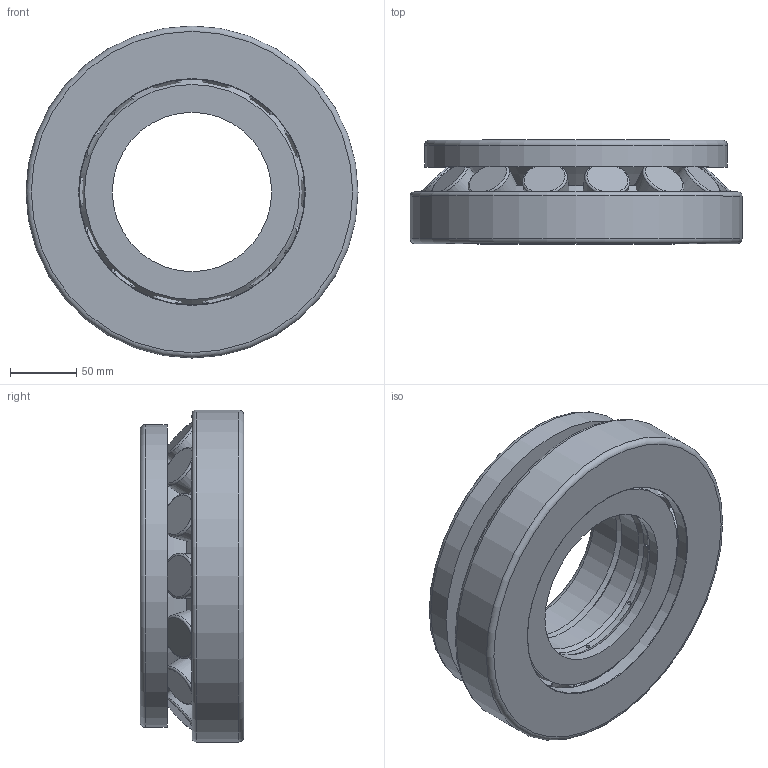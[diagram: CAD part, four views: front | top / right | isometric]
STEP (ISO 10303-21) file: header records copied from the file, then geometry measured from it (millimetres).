
FILE_DESCRIPTION(/* description */ (''),/* implementation_level */ '2;1');
FILE_NAME(/* name */ 'C:\Users\OUREHANEKD\Desktop\Ložiská\MODELY\ASL\294MC\292--\29424MC.stp',/* time_stamp */ '2016-09-22T13:52:43+02:00',/* author */ ('OUREHANEKD'),/* organization */ (''),/* preprocessor_version */ 'ST-DEVELOPER v15.6',/* originating_system */ 'Autodesk Inventor 2015',/* authorisation */ '');
FILE_SCHEMA (('AUTOMOTIVE_DESIGN { 1 0 10303 214 3 1 1 }'));
Length unit declared in the file: millimetre
Products named in the file (6): 29424MC-01; 29424MC-02; 29424MC-kl; 29424MC-kr; 29424MC-roller; 29424MC
Assembly tree (18 placements, depth 2):
  29424MC
    29424MC-01
    29424MC-02
    29424MC-kl
    29424MC-kr
    29424MC-roller  x14
Bounding box: 250 x 78 x 250 mm (x, y, z)
Volume: 2312927.9 mm3; surface area: 373287.5 mm2
Topology: 18 solids, 18 shells, 116 faces, 225 edges, 144 vertices
Faces by surface type: plane 37, torus 35, cylinder 21, bspline 15, cone 8
Full cylindrical faces by diameter (mm): 2.418 x8, 120 x3, 124.056 x1, 126.24 x2, 137.238 x3, 161.888 x1, 170 x1, 228 x1, 250 x1
Entity records: 1967 total; most frequent: CARTESIAN_POINT 785, DIRECTION 238, ORIENTED_EDGE 128, AXIS2_PLACEMENT_3D 119, EDGE_LOOP 114, EDGE_CURVE 64, FACE_BOUND 63, VERTEX_POINT 62
